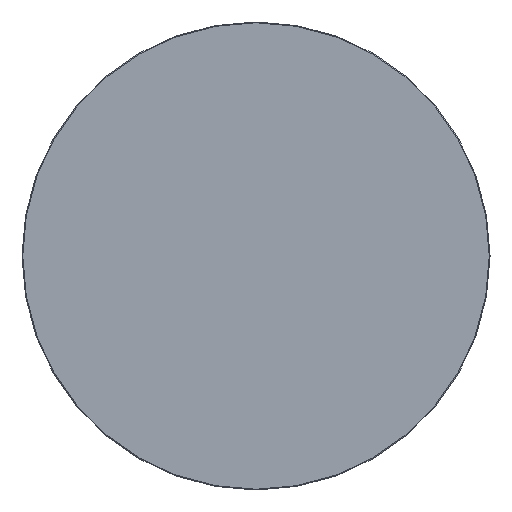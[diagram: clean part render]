
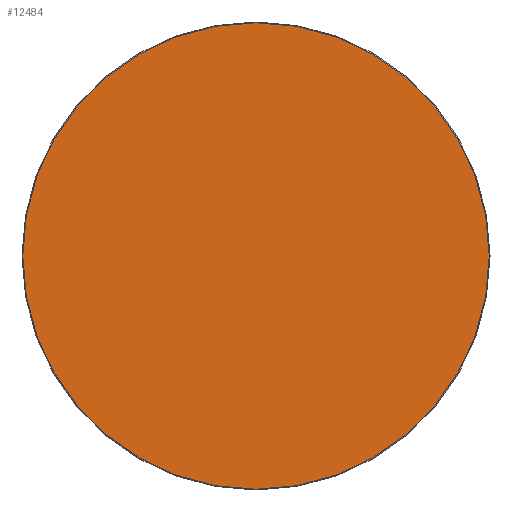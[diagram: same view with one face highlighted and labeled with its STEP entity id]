
A CAD part, top view. The second image highlights one B-rep face of the part: STEP entity #12484.
In plain terms, the highlighted planar face has unit normal (0, 0, 1).
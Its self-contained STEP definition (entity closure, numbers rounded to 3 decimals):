
#12409=CARTESIAN_POINT('',(0.,0.,20.));
#12410=DIRECTION('',(1.,0.,0.));
#12411=DIRECTION('',(0.,0.,1.));
#12412=AXIS2_PLACEMENT_3D('',#12409,#12411,#12410);
#12413=PLANE('',#12412);
#12414=CARTESIAN_POINT('',(-0.5,-448.5,20.));
#12415=VERTEX_POINT('',#12414);
#12416=CARTESIAN_POINT('',(0.5,-448.5,20.));
#12417=VERTEX_POINT('',#12416);
#12418=CARTESIAN_POINT('',(-0.5,-448.5,20.));
#12419=DIRECTION('',(1.,0.,0.));
#12420=VECTOR('',#12419,1.);
#12421=LINE('',#12418,#12420);
#12422=EDGE_CURVE('',#12415,#12417,#12421,.T.);
#12423=ORIENTED_EDGE('E105',*,*,#12422,.T.);
#12424=CARTESIAN_POINT('',(448.5,-0.5,20.));
#12425=VERTEX_POINT('',#12424);
#12426=CARTESIAN_POINT('',(0.5,-0.5,20.));
#12427=DIRECTION('',(0.,-1.,0.));
#12428=DIRECTION('',(0.,-0.,1.));
#12429=AXIS2_PLACEMENT_3D('',#12426,#12428,#12427);
#12430=CIRCLE('',#12429,448.);
#12431=EDGE_CURVE('',#12417,#12425,#12430,.T.);
#12432=ORIENTED_EDGE('E107',*,*,#12431,.T.);
#12433=CARTESIAN_POINT('',(448.5,0.5,20.));
#12434=VERTEX_POINT('',#12433);
#12435=CARTESIAN_POINT('',(448.5,-0.5,20.));
#12436=DIRECTION('',(0.,1.,0.));
#12437=VECTOR('',#12436,1.);
#12438=LINE('',#12435,#12437);
#12439=EDGE_CURVE('',#12425,#12434,#12438,.T.);
#12440=ORIENTED_EDGE('E109',*,*,#12439,.T.);
#12441=CARTESIAN_POINT('',(0.5,448.5,20.));
#12442=VERTEX_POINT('',#12441);
#12443=CARTESIAN_POINT('',(0.5,0.5,20.));
#12444=DIRECTION('',(1.,0.,0.));
#12445=DIRECTION('',(0.,0.,1.));
#12446=AXIS2_PLACEMENT_3D('',#12443,#12445,#12444);
#12447=CIRCLE('',#12446,448.);
#12448=EDGE_CURVE('',#12434,#12442,#12447,.T.);
#12449=ORIENTED_EDGE('E111',*,*,#12448,.T.);
#12450=CARTESIAN_POINT('',(-0.5,448.5,20.));
#12451=VERTEX_POINT('',#12450);
#12452=CARTESIAN_POINT('',(0.5,448.5,20.));
#12453=DIRECTION('',(-1.,0.,0.));
#12454=VECTOR('',#12453,1.);
#12455=LINE('',#12452,#12454);
#12456=EDGE_CURVE('',#12442,#12451,#12455,.T.);
#12457=ORIENTED_EDGE('E113',*,*,#12456,.T.);
#12458=CARTESIAN_POINT('',(-448.5,0.5,20.));
#12459=VERTEX_POINT('',#12458);
#12460=CARTESIAN_POINT('',(-0.5,0.5,20.));
#12461=DIRECTION('',(0.,1.,0.));
#12462=DIRECTION('',(0.,0.,1.));
#12463=AXIS2_PLACEMENT_3D('',#12460,#12462,#12461);
#12464=CIRCLE('',#12463,448.);
#12465=EDGE_CURVE('',#12451,#12459,#12464,.T.);
#12466=ORIENTED_EDGE('E115',*,*,#12465,.T.);
#12467=CARTESIAN_POINT('',(-448.5,-0.5,20.));
#12468=VERTEX_POINT('',#12467);
#12469=CARTESIAN_POINT('',(-448.5,0.5,20.));
#12470=DIRECTION('',(0.,-1.,0.));
#12471=VECTOR('',#12470,1.);
#12472=LINE('',#12469,#12471);
#12473=EDGE_CURVE('',#12459,#12468,#12472,.T.);
#12474=ORIENTED_EDGE('E117',*,*,#12473,.T.);
#12475=CARTESIAN_POINT('',(-0.5,-0.5,20.));
#12476=DIRECTION('',(-1.,0.,0.));
#12477=DIRECTION('',(0.,0.,1.));
#12478=AXIS2_PLACEMENT_3D('',#12475,#12477,#12476);
#12479=CIRCLE('',#12478,448.);
#12480=EDGE_CURVE('',#12468,#12415,#12479,.T.);
#12481=ORIENTED_EDGE('E119',*,*,#12480,.T.);
#12482=EDGE_LOOP('',(#12423,#12432,#12440,#12449,#12457,#12466,#12474,#12481));
#12483=FACE_OUTER_BOUND('',#12482,.T.);
#12484=ADVANCED_FACE('F2',(#12483),#12413,.T.);
